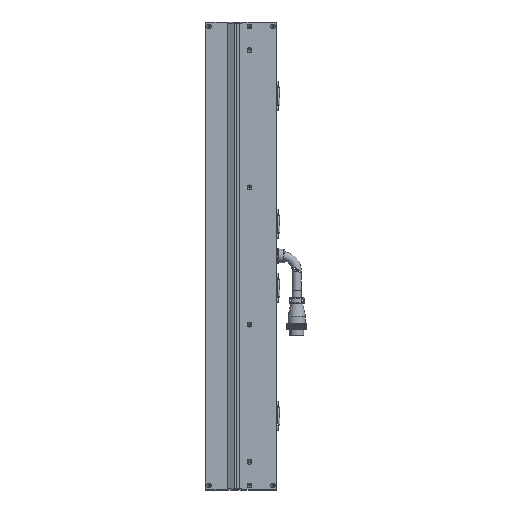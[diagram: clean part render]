
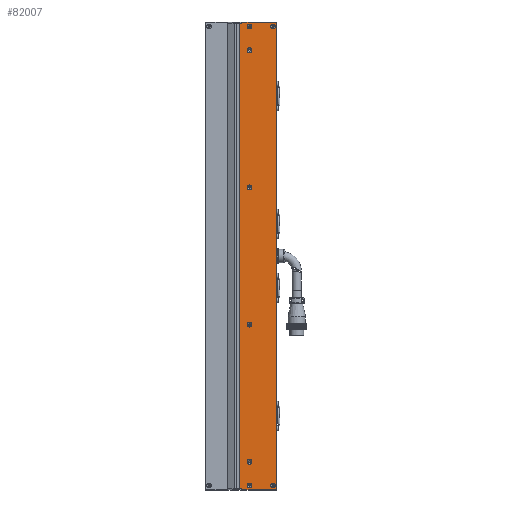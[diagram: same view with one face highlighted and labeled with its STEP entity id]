
A CAD part, left-side view. The second image highlights one B-rep face of the part: STEP entity #82007.
In plain terms, the highlighted planar face has unit normal (-1, 0, 0).
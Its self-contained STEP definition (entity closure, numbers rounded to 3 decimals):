
#182 = AXIS2_PLACEMENT_3D ( 'NONE', #88425, #48347, #102124 ) ;
#1152 = CARTESIAN_POINT ( 'NONE',  ( -24.998, -36.5, 270. ) ) ;
#1636 = ORIENTED_EDGE ( 'NONE', *, *, #6798, .T. ) ;
#2497 = CARTESIAN_POINT ( 'NONE',  ( -24.998, -72.5, 305. ) ) ;
#3817 = FACE_BOUND ( 'NONE', #64288, .T. ) ;
#4976 = EDGE_CURVE ( 'NONE', #34839, #19546, #101055, .T. ) ;
#5384 = CARTESIAN_POINT ( 'NONE',  ( -24.998, -26.5, 306.5 ) ) ;
#5397 = AXIS2_PLACEMENT_3D ( 'NONE', #71414, #95594, #103665 ) ;
#6622 = CARTESIAN_POINT ( 'NONE',  ( -24.998, -72.5, -306.5 ) ) ;
#6798 = EDGE_CURVE ( 'NONE', #34691, #19546, #48030, .T. ) ;
#9224 = VECTOR ( 'NONE', #43649, 1000. ) ;
#9292 = CARTESIAN_POINT ( 'NONE',  ( -24.998, -26.5, -298. ) ) ;
#11093 = CARTESIAN_POINT ( 'NONE',  ( -24.998, -67.5, 304.15 ) ) ;
#11335 = DIRECTION ( 'NONE',  ( 0., 0., 1. ) ) ;
#12055 = DIRECTION ( 'NONE',  ( 0., -1., 0. ) ) ;
#12437 = VECTOR ( 'NONE', #23804, 1000. ) ;
#12625 = FACE_BOUND ( 'NONE', #79052, .T. ) ;
#13812 = VERTEX_POINT ( 'NONE', #46269 ) ;
#13983 = VERTEX_POINT ( 'NONE', #32473 ) ;
#16372 = VERTEX_POINT ( 'NONE', #41038 ) ;
#17792 = AXIS2_PLACEMENT_3D ( 'NONE', #1152, #57477, #25753 ) ;
#19098 = VERTEX_POINT ( 'NONE', #49961 ) ;
#19546 = VERTEX_POINT ( 'NONE', #41087 ) ;
#20348 = VECTOR ( 'NONE', #100302, 1000. ) ;
#20425 = EDGE_CURVE ( 'NONE', #13812, #34691, #59971, .T. ) ;
#20486 = DIRECTION ( 'NONE',  ( -1., 0., 0. ) ) ;
#21503 = CARTESIAN_POINT ( 'NONE',  ( -24.998, -23.25, -305. ) ) ;
#23804 = DIRECTION ( 'NONE',  ( 0., -1., 0. ) ) ;
#23836 = CARTESIAN_POINT ( 'NONE',  ( -24.998, -36.5, -266.85 ) ) ;
#25187 = CARTESIAN_POINT ( 'NONE',  ( -24.998, -23.25, -305. ) ) ;
#25753 = DIRECTION ( 'NONE',  ( 0., 0., 1. ) ) ;
#26805 = CIRCLE ( 'NONE', #53920, 3.15 ) ;
#29406 = CIRCLE ( 'NONE', #5397, 3.15 ) ;
#29548 = VERTEX_POINT ( 'NONE', #71754 ) ;
#29596 = DIRECTION ( 'NONE',  ( 0., 0., 1. ) ) ;
#29644 = VERTEX_POINT ( 'NONE', #11093 ) ;
#30964 = VERTEX_POINT ( 'NONE', #93818 ) ;
#31510 = FACE_BOUND ( 'NONE', #101995, .T. ) ;
#32218 = ORIENTED_EDGE ( 'NONE', *, *, #50156, .F. ) ;
#32473 = CARTESIAN_POINT ( 'NONE',  ( -24.998, -72., -306.5 ) ) ;
#33673 = ORIENTED_EDGE ( 'NONE', *, *, #90549, .F. ) ;
#34691 = VERTEX_POINT ( 'NONE', #5384 ) ;
#34839 = VERTEX_POINT ( 'NONE', #65171 ) ;
#35316 = FACE_OUTER_BOUND ( 'NONE', #76182, .T. ) ;
#40279 = EDGE_LOOP ( 'NONE', ( #66909 ) ) ;
#40307 = LINE ( 'NONE', #102059, #93144 ) ;
#40327 = CARTESIAN_POINT ( 'NONE',  ( -24.998, -72., 305. ) ) ;
#41038 = CARTESIAN_POINT ( 'NONE',  ( -24.998, -26.5, -306.5 ) ) ;
#41055 = EDGE_CURVE ( 'NONE', #13983, #13812, #81441, .T. ) ;
#41087 = CARTESIAN_POINT ( 'NONE',  ( -24.998, -26.5, 305. ) ) ;
#41348 = DIRECTION ( 'NONE',  ( 0., 0., -1. ) ) ;
#43649 = DIRECTION ( 'NONE',  ( 0., -1., 0. ) ) ;
#44211 = LINE ( 'NONE', #9292, #50343 ) ;
#44499 = DIRECTION ( 'NONE',  ( 0., 0., 1. ) ) ;
#45494 = ORIENTED_EDGE ( 'NONE', *, *, #41055, .T. ) ;
#46269 = CARTESIAN_POINT ( 'NONE',  ( -24.998, -72., 306.5 ) ) ;
#47471 = ORIENTED_EDGE ( 'NONE', *, *, #62527, .T. ) ;
#47791 = CARTESIAN_POINT ( 'NONE',  ( -24.998, -36.5, -86.85 ) ) ;
#48030 = LINE ( 'NONE', #59555, #20348 ) ;
#48347 = DIRECTION ( 'NONE',  ( -1., 0., 0. ) ) ;
#48393 = DIRECTION ( 'NONE',  ( 0., 0., 1. ) ) ;
#49034 = DIRECTION ( 'NONE',  ( 0., 0., 1. ) ) ;
#49229 = ORIENTED_EDGE ( 'NONE', *, *, #61914, .F. ) ;
#49869 = ORIENTED_EDGE ( 'NONE', *, *, #85913, .F. ) ;
#49961 = CARTESIAN_POINT ( 'NONE',  ( -24.998, -26.5, -305. ) ) ;
#50156 = EDGE_CURVE ( 'NONE', #29644, #29644, #98824, .T. ) ;
#50343 = VECTOR ( 'NONE', #41348, 1000. ) ;
#50354 = AXIS2_PLACEMENT_3D ( 'NONE', #89083, #73002, #49034 ) ;
#50742 = ORIENTED_EDGE ( 'NONE', *, *, #20425, .T. ) ;
#51490 = AXIS2_PLACEMENT_3D ( 'NONE', #67966, #100217, #76022 ) ;
#52521 = DIRECTION ( 'NONE',  ( 0., 0., 1. ) ) ;
#53920 = AXIS2_PLACEMENT_3D ( 'NONE', #69692, #91250, #44499 ) ;
#54854 = CIRCLE ( 'NONE', #50354, 3.15 ) ;
#55884 = CARTESIAN_POINT ( 'NONE',  ( -24.998, -36.5, -297.85 ) ) ;
#56690 = LINE ( 'NONE', #21503, #99404 ) ;
#57061 = DIRECTION ( 'NONE',  ( 0., 1., 0. ) ) ;
#57170 = ORIENTED_EDGE ( 'NONE', *, *, #97109, .T. ) ;
#57230 = VERTEX_POINT ( 'NONE', #82550 ) ;
#57477 = DIRECTION ( 'NONE',  ( -1., 0., 0. ) ) ;
#57751 = CARTESIAN_POINT ( 'NONE',  ( -24.998, -72.5, 306.5 ) ) ;
#58461 = ORIENTED_EDGE ( 'NONE', *, *, #79842, .F. ) ;
#58674 = AXIS2_PLACEMENT_3D ( 'NONE', #99564, #76072, #11335 ) ;
#58977 = LINE ( 'NONE', #6622, #12437 ) ;
#59186 = DIRECTION ( 'NONE',  ( 1., 0., 0. ) ) ;
#59555 = CARTESIAN_POINT ( 'NONE',  ( -24.998, -26.5, 298. ) ) ;
#59971 = LINE ( 'NONE', #57751, #91384 ) ;
#60550 = EDGE_LOOP ( 'NONE', ( #49869 ) ) ;
#61914 = EDGE_CURVE ( 'NONE', #73863, #34839, #56690, .T. ) ;
#62527 = EDGE_CURVE ( 'NONE', #16372, #13983, #58977, .T. ) ;
#62595 = VECTOR ( 'NONE', #48393, 1000. ) ;
#62877 = EDGE_CURVE ( 'NONE', #30964, #30964, #97768, .T. ) ;
#64288 = EDGE_LOOP ( 'NONE', ( #32218 ) ) ;
#65171 = CARTESIAN_POINT ( 'NONE',  ( -24.998, -23.25, 305. ) ) ;
#65577 = FACE_BOUND ( 'NONE', #40279, .T. ) ;
#66151 = VERTEX_POINT ( 'NONE', #55884 ) ;
#66909 = ORIENTED_EDGE ( 'NONE', *, *, #77945, .F. ) ;
#67966 = CARTESIAN_POINT ( 'NONE',  ( -24.998, -67.5, 301. ) ) ;
#69692 = CARTESIAN_POINT ( 'NONE',  ( -24.998, -36.5, -301. ) ) ;
#70302 = AXIS2_PLACEMENT_3D ( 'NONE', #2497, #59186, #98853 ) ;
#71414 = CARTESIAN_POINT ( 'NONE',  ( -24.998, -67.5, -301. ) ) ;
#71754 = CARTESIAN_POINT ( 'NONE',  ( -24.998, -36.5, 273.15 ) ) ;
#73002 = DIRECTION ( 'NONE',  ( -1., 0., 0. ) ) ;
#73130 = FACE_BOUND ( 'NONE', #60550, .T. ) ;
#73321 = CIRCLE ( 'NONE', #58674, 3.15 ) ;
#73863 = VERTEX_POINT ( 'NONE', #25187 ) ;
#74086 = ORIENTED_EDGE ( 'NONE', *, *, #62877, .F. ) ;
#74343 = FACE_BOUND ( 'NONE', #90068, .T. ) ;
#75628 = FACE_BOUND ( 'NONE', #87297, .T. ) ;
#75735 = PLANE ( 'NONE',  #70302 ) ;
#76022 = DIRECTION ( 'NONE',  ( 0., 0., 1. ) ) ;
#76072 = DIRECTION ( 'NONE',  ( -1., 0., 0. ) ) ;
#76182 = EDGE_LOOP ( 'NONE', ( #57170, #83106, #47471, #45494, #50742, #1636, #86200, #49229 ) ) ;
#77452 = EDGE_CURVE ( 'NONE', #81256, #81256, #86083, .T. ) ;
#77945 = EDGE_CURVE ( 'NONE', #66151, #66151, #26805, .T. ) ;
#78687 = ORIENTED_EDGE ( 'NONE', *, *, #77452, .F. ) ;
#79052 = EDGE_LOOP ( 'NONE', ( #58461 ) ) ;
#79842 = EDGE_CURVE ( 'NONE', #82454, #82454, #73321, .T. ) ;
#80176 = ORIENTED_EDGE ( 'NONE', *, *, #88044, .F. ) ;
#81256 = VERTEX_POINT ( 'NONE', #103999 ) ;
#81441 = LINE ( 'NONE', #40327, #62595 ) ;
#82007 = ADVANCED_FACE ( 'NONE', ( #3817, #74343, #12625, #75628, #86893, #73130, #31510, #65577, #35316 ), #75735, .F. ) ;
#82454 = VERTEX_POINT ( 'NONE', #23836 ) ;
#82550 = CARTESIAN_POINT ( 'NONE',  ( -24.998, -67.5, -297.85 ) ) ;
#82922 = EDGE_LOOP ( 'NONE', ( #78687 ) ) ;
#83106 = ORIENTED_EDGE ( 'NONE', *, *, #95274, .T. ) ;
#83428 = CARTESIAN_POINT ( 'NONE',  ( -24.998, -72.5, 305. ) ) ;
#85913 = EDGE_CURVE ( 'NONE', #29548, #29548, #91405, .T. ) ;
#86083 = CIRCLE ( 'NONE', #98217, 3.15 ) ;
#86200 = ORIENTED_EDGE ( 'NONE', *, *, #4976, .F. ) ;
#86246 = CARTESIAN_POINT ( 'NONE',  ( -24.998, -36.5, 90. ) ) ;
#86893 = FACE_BOUND ( 'NONE', #82922, .T. ) ;
#87297 = EDGE_LOOP ( 'NONE', ( #80176 ) ) ;
#88044 = EDGE_CURVE ( 'NONE', #93699, #93699, #54854, .T. ) ;
#88425 = CARTESIAN_POINT ( 'NONE',  ( -24.998, -36.5, 301. ) ) ;
#89083 = CARTESIAN_POINT ( 'NONE',  ( -24.998, -36.5, -90. ) ) ;
#90068 = EDGE_LOOP ( 'NONE', ( #74086 ) ) ;
#90549 = EDGE_CURVE ( 'NONE', #57230, #57230, #29406, .T. ) ;
#91250 = DIRECTION ( 'NONE',  ( -1., 0., 0. ) ) ;
#91384 = VECTOR ( 'NONE', #57061, 1000. ) ;
#91405 = CIRCLE ( 'NONE', #17792, 3.15 ) ;
#93144 = VECTOR ( 'NONE', #12055, 1000. ) ;
#93699 = VERTEX_POINT ( 'NONE', #47791 ) ;
#93818 = CARTESIAN_POINT ( 'NONE',  ( -24.998, -36.5, 304.15 ) ) ;
#95274 = EDGE_CURVE ( 'NONE', #19098, #16372, #44211, .T. ) ;
#95594 = DIRECTION ( 'NONE',  ( -1., 0., 0. ) ) ;
#97109 = EDGE_CURVE ( 'NONE', #73863, #19098, #40307, .T. ) ;
#97768 = CIRCLE ( 'NONE', #182, 3.15 ) ;
#98217 = AXIS2_PLACEMENT_3D ( 'NONE', #86246, #20486, #52521 ) ;
#98824 = CIRCLE ( 'NONE', #51490, 3.15 ) ;
#98853 = DIRECTION ( 'NONE',  ( 0., 0., -1. ) ) ;
#99404 = VECTOR ( 'NONE', #29596, 1000. ) ;
#99564 = CARTESIAN_POINT ( 'NONE',  ( -24.998, -36.5, -270. ) ) ;
#100217 = DIRECTION ( 'NONE',  ( -1., 0., 0. ) ) ;
#100302 = DIRECTION ( 'NONE',  ( 0., 0., -1. ) ) ;
#101055 = LINE ( 'NONE', #83428, #9224 ) ;
#101995 = EDGE_LOOP ( 'NONE', ( #33673 ) ) ;
#102059 = CARTESIAN_POINT ( 'NONE',  ( -24.998, -72.5, -305. ) ) ;
#102124 = DIRECTION ( 'NONE',  ( 0., 0., 1. ) ) ;
#103665 = DIRECTION ( 'NONE',  ( 0., 0., 1. ) ) ;
#103999 = CARTESIAN_POINT ( 'NONE',  ( -24.998, -36.5, 93.15 ) ) ;
